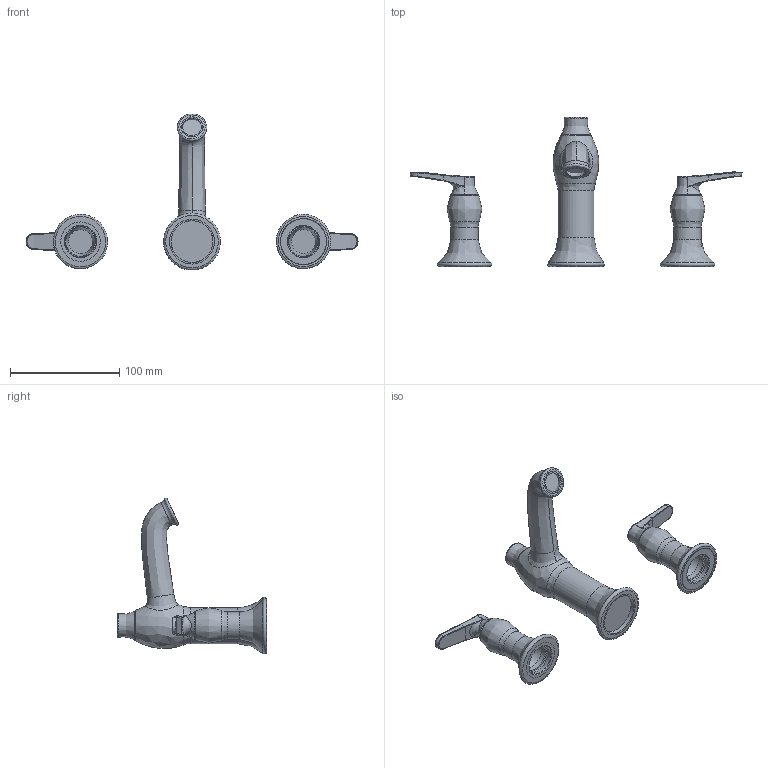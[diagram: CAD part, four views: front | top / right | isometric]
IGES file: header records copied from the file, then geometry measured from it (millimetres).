
Global section: file name: 5cfb271e-00ed-4623-8015-45dc5889ad65; native system: unknown; preprocessor: unknown; author: unknown; organization: unknown; date: 20191216.130444; units: millimetre
Bounding box: 303.73 x 136.52 x 142.72 mm (x, y, z)
Volume: 265678 mm3; surface area: 56674.1 mm2
Topology: 17 solids, 18 shells, 340 faces, 1038 edges, 727 vertices
Faces by surface type: bspline 340
